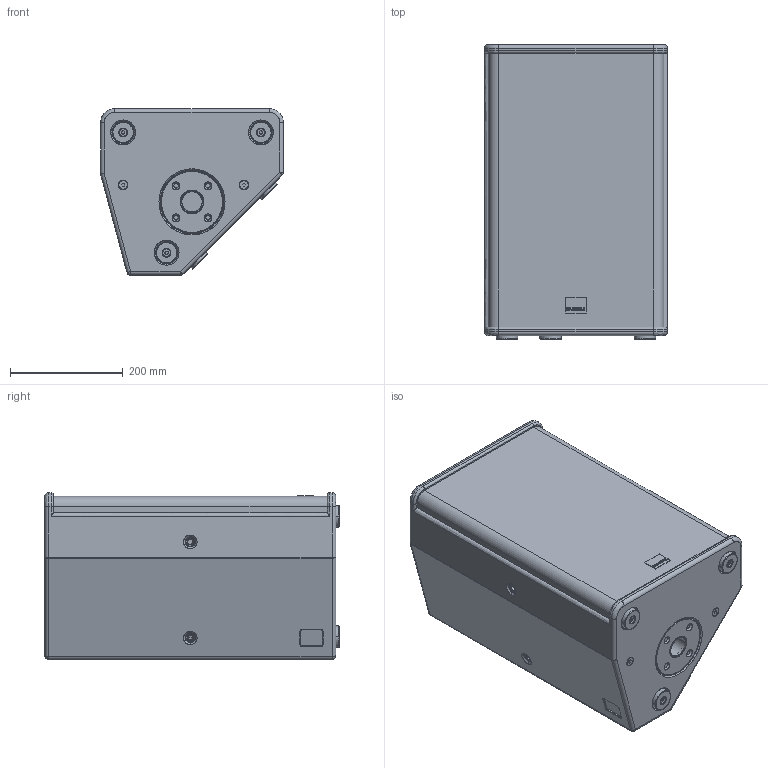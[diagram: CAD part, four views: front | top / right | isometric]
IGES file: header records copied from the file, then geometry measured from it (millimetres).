
Start section: SolidWorks IGES file using analytic representation for surfaces
Global section: file name: C:\Dokumente und Einstellungen\PC_Fabian\Desktop\TS-Serie\Seeburg_TSM10.IGS; native system: SolidWorks 2009; preprocessor: SolidWorks 2009; author: PC_Fabian; date: 121017.133028; units: millimetre
Bounding box: 324 x 521 x 295 mm (x, y, z)
Surface area: 1461389.6 mm2 (no closed solid volume)
Topology: 0 solids, 0 shells, 784 faces, 10368 edges, 10366 vertices
Faces by surface type: revolution 419, bspline 365
